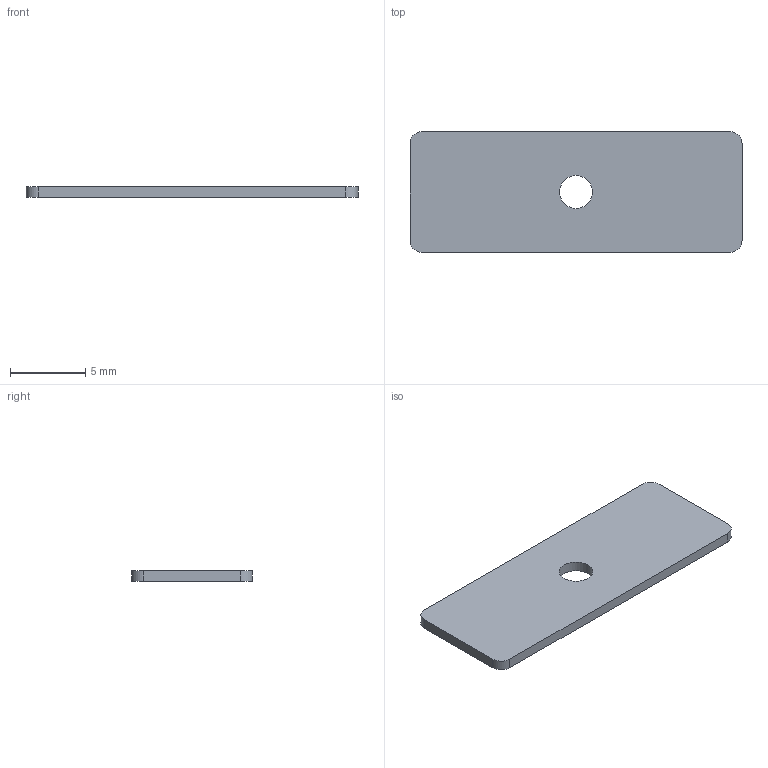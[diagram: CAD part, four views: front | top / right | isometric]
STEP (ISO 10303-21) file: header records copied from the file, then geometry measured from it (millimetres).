
FILE_DESCRIPTION(('Open CASCADE Model'),'2;1');
FILE_NAME('Open CASCADE Shape Model','2026-08-15T08:52:40',('Author'),( 'Open CASCADE'),'Open CASCADE STEP processor 7.9','Open CASCADE 7.9' ,'Unknown');
FILE_SCHEMA(('AUTOMOTIVE_DESIGN { 1 0 10303 214 1 1 1 1 }'));
Length unit declared in the file: millimetre
Products named in the file (1): Open CASCADE STEP translator 7.9 10
Bounding box: 22 x 8 x 0.7 mm (x, y, z)
Volume: 120.2 mm3; surface area: 389.2 mm2
Topology: 1 solids, 1 shells, 11 faces, 27 edges, 18 vertices
Faces by surface type: plane 6, cylinder 5
Full cylindrical faces by diameter (mm): 2.2 x1
Entity records: 714 total; most frequent: CARTESIAN_POINT 147, DIRECTION 109, LINE 61, VECTOR 61, ORIENTED_EDGE 54, PCURVE 54, DEFINITIONAL_REPRESENTATION 54, EDGE_CURVE 27
